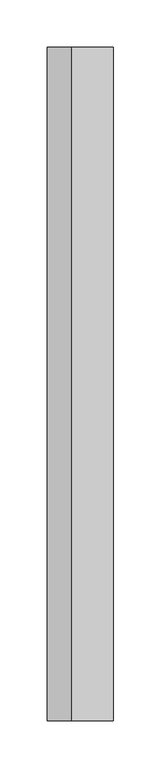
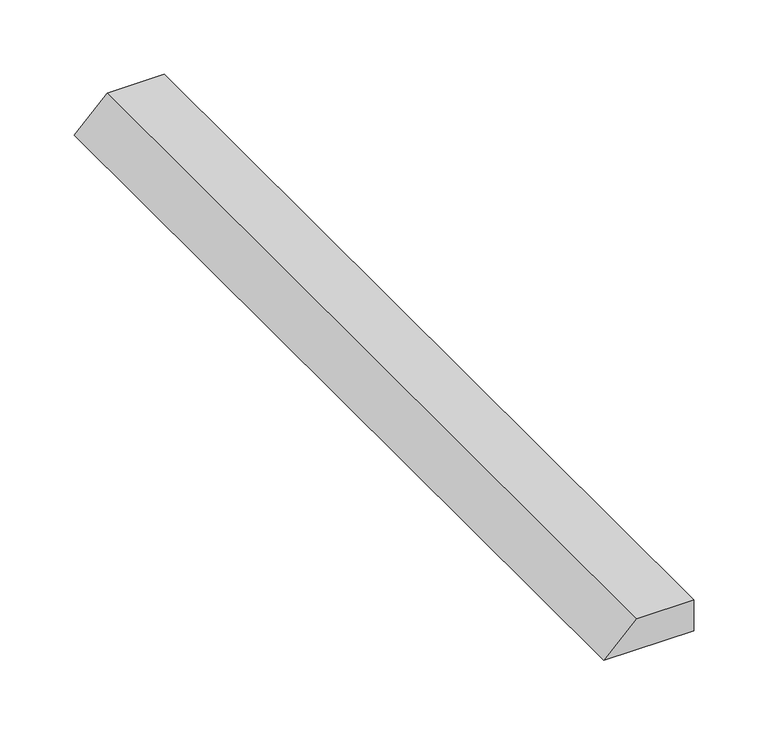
"""IFC4 building model written with IfcOpenShell, lengths in millimetres: proxy geometry, CAMBRIDGE^TABLE 2_4884 Rect-CORNER STILE 4."""

from ifc_helpers import new_model, si_unit, frame, origin, place, context, project, spatial, polyline, outline, extrude, source, transform, mapped, element, save


def generic_models_8e3afade(model_context):
    return source(origin(), model_context, "Body", "SweptSolid", [
        extrude(outline(polyline([(-812.8, 609.6), (-812.8, 679.45), (-787.4, 679.45), (-787.4, 635.0), (-812.8, 609.6)])), frame((0.0, -711.2, 0.0), z_axis=(0.0, 1.0, 0.0), x_axis=(0.0, 0.0, 1.0)), (0.0, 0.0, 1.0), 711.2),
    ])


if __name__ == "__main__":
    model = new_model("IFC4")
    model_context = context("Model", 3, world=origin())
    ifc_project = project(units=[si_unit("LENGTHUNIT", "METRE", prefix="MILLI")], contexts=[model_context])
    site = spatial("IfcSite", under=ifc_project)
    building = spatial("IfcBuilding", under=site)
    placement = place(None, origin())
    generic_models_shape = generic_models_8e3afade(model_context)
    element("IfcBuildingElementProxy", 1, Name="CAMBRIDGE^TABLE 2_4884 Rect-CORNER STILE 4", ObjectType="CAMBRIDGE^TABLE 2_4884 Rect-CORNER STILE 4", at=placement, inside=building, context=model_context, shape_type="MappedRepresentation", body=[
        mapped(generic_models_shape, transform((0.0, 0.0, 0.0), x_axis=(1.0, 0.0, 0.0), y_axis=(0.0, 1.0, 0.0), z_axis=(0.0, 0.0, 1.0))),
    ])
    save(model, "model.ifc")
